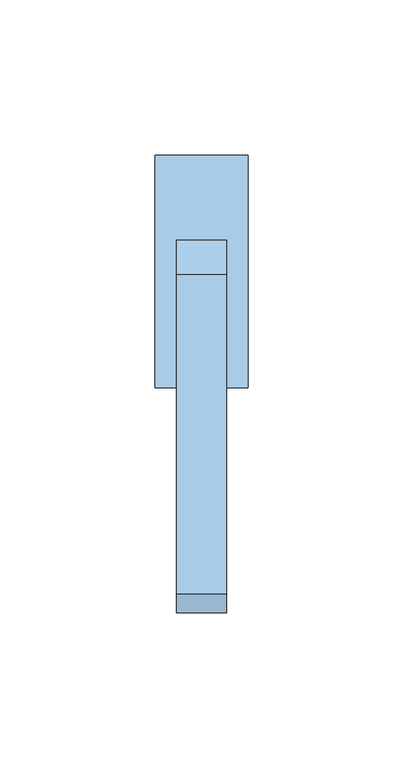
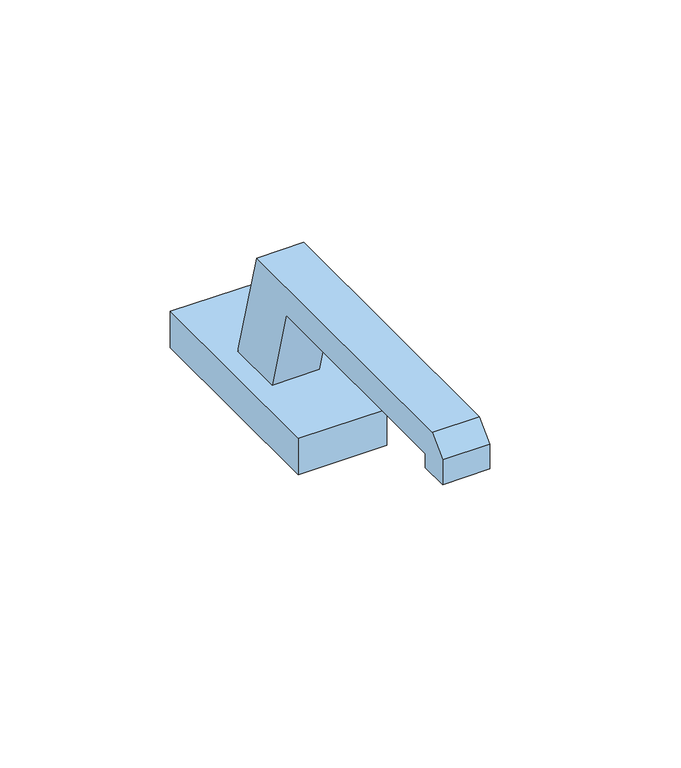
"""IFC4 building model written with IfcOpenShell, lengths in millimetres: window geometry, Окна.Alumark_фурнитура_поворотная_штульп : Окна.Alumark_фурнитура_поворотная_штульп."""

from ifc_helpers import new_model, si_unit, origin, place, context, project, spatial, faceted_brep, source, transform, mapped, element, save


def window_b4f2b5aa(model_context):
    return source(origin(), model_context, "Body", "Brep", [
        faceted_brep([(15.0, 37.5, 13.0), (-15.0, 37.5, 13.0), (-15.0, -37.5, 13.0), (15.0, -37.5, 13.0), (-8.0, 10.0, 13.0), (8.0, 10.0, 13.0), (8.0, -10.0, 13.0), (-8.0, -10.0, 13.0), (15.0, 37.5, 0.0), (15.0, -37.5, 0.0), (-15.0, -37.5, 0.0), (-15.0, 37.5, 0.0), (8.0, -1.0, 53.0), (-8.0, -1.0, 53.0), (-8.0, -103.8552635, 53.0), (8.0, -103.8552635, 53.0), (-8.0, -18.25, 43.0), (-8.0, -99.7131278, 43.0), (-8.0, -100.0, 42.7131278), (-8.0, -100.0, 38.0), (-8.0, -110.0, 38.0), (-8.0, -110.0, 46.8552635), (8.0, -18.25, 43.0), (8.0, -110.0, 46.8552635), (8.0, -110.0, 38.0), (8.0, -100.0, 38.0), (8.0, -100.0, 42.7131278), (8.0, -99.7131278, 43.0)], [[[0, 1, 2, 3], [4, 5, 6, 7]], [[8, 9, 10, 11]], [[1, 0, 8, 11]], [[2, 1, 11, 10]], [[3, 2, 10, 9]], [[0, 3, 9, 8]], [[12, 13, 14, 15]], [[13, 12, 5, 4]], [[14, 13, 4, 7, 16, 17, 18, 19, 20, 21]], [[7, 6, 22, 16]], [[5, 12, 15, 23, 24, 25, 26, 27, 22, 6]], [[27, 17, 16, 22]], [[25, 24, 20, 19]], [[26, 25, 19, 18]], [[24, 23, 21, 20]], [[27, 26, 18, 17]], [[23, 15, 14, 21]]]),
    ])


if __name__ == "__main__":
    model = new_model("IFC4")
    model_context = context("Model", 3, world=origin())
    ifc_project = project(units=[si_unit("LENGTHUNIT", "METRE", prefix="MILLI")], contexts=[model_context])
    site = spatial("IfcSite", under=ifc_project)
    building = spatial("IfcBuilding", under=site)
    placement = place(None, origin())
    window_shape = window_b4f2b5aa(model_context)
    element("IfcWindow", 1, ObjectType="Окна.Alumark_фурнитура_поворотная_штульп : Окна.Alumark_фурнитура_поворотная_штульп", at=placement, inside=building, context=model_context, shape_type="MappedRepresentation", body=[
        mapped(window_shape, transform((0.0, 0.0, 0.0), x_axis=(1.0, 0.0, 0.0), y_axis=(0.0, 1.0, 0.0), z_axis=(0.0, 0.0, 1.0))),
    ])
    save(model, "model.ifc")
